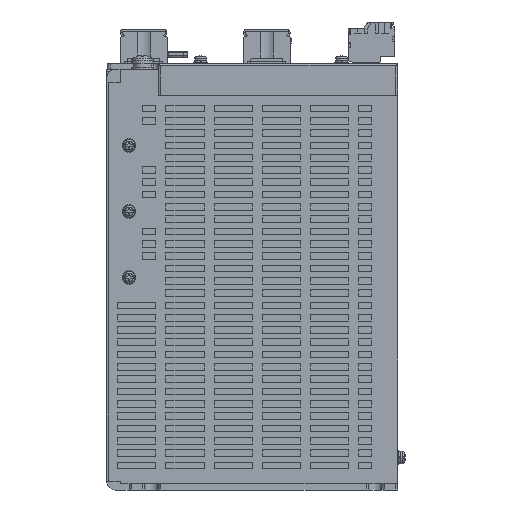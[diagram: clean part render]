
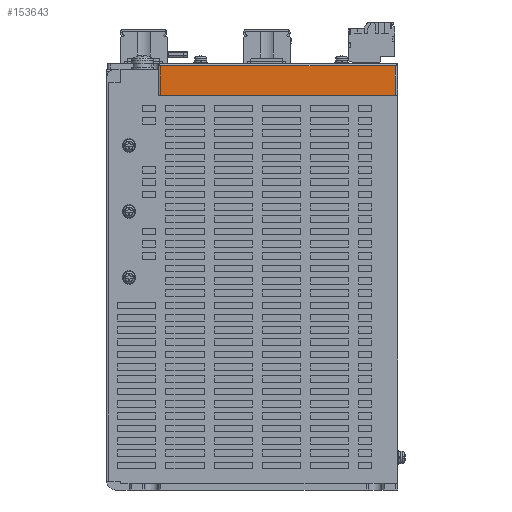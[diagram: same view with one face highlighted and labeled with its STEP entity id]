
A CAD part, front view. The second image highlights one B-rep face of the part: STEP entity #153643.
In plain terms, the highlighted planar face has unit normal (0, -1, 0).
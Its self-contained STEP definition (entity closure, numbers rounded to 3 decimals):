
#4545 = DIRECTION ( 'NONE',  ( 0., 1., 0. ) ) ;
#29668 = EDGE_CURVE ( 'NONE', #419558, #317708, #216721, .T. ) ;
#34182 = DIRECTION ( 'NONE',  ( 0., 0., -1. ) ) ;
#70110 = AXIS2_PLACEMENT_3D ( 'NONE', #143498, #4545, #345527 ) ;
#71529 = CARTESIAN_POINT ( 'NONE',  ( 53.621, -113.446, 460.5 ) ) ;
#74233 = CARTESIAN_POINT ( 'NONE',  ( 54.621, -113.446, 459.5 ) ) ;
#74256 = EDGE_CURVE ( 'NONE', #317708, #226761, #296153, .T. ) ;
#97612 = EDGE_CURVE ( 'NONE', #226761, #218084, #414624, .T. ) ;
#99187 = ORIENTED_EDGE ( 'NONE', *, *, #29668, .T. ) ;
#104711 = FACE_OUTER_BOUND ( 'NONE', #380770, .T. ) ;
#107751 = PLANE ( 'NONE',  #70110 ) ;
#125916 = VECTOR ( 'NONE', #310698, 1000. ) ;
#143498 = CARTESIAN_POINT ( 'NONE',  ( 54.621, -113.446, 460.5 ) ) ;
#153643 = ADVANCED_FACE ( 'NONE', ( #104711 ), #107751, .F. ) ;
#154868 = CARTESIAN_POINT ( 'NONE',  ( -51.379, -113.446, 446.5 ) ) ;
#183415 = CARTESIAN_POINT ( 'NONE',  ( -51.379, -113.446, 459.5 ) ) ;
#183551 = ORIENTED_EDGE ( 'NONE', *, *, #194903, .F. ) ;
#194903 = EDGE_CURVE ( 'NONE', #419558, #218084, #408445, .T. ) ;
#212840 = ORIENTED_EDGE ( 'NONE', *, *, #74256, .T. ) ;
#216721 = LINE ( 'NONE', #71529, #125916 ) ;
#218084 = VERTEX_POINT ( 'NONE', #154868 ) ;
#224248 = CARTESIAN_POINT ( 'NONE',  ( 53.621, -113.446, 459.5 ) ) ;
#226761 = VERTEX_POINT ( 'NONE', #183415 ) ;
#247467 = VECTOR ( 'NONE', #367822, 1000. ) ;
#291911 = ORIENTED_EDGE ( 'NONE', *, *, #97612, .T. ) ;
#296153 = LINE ( 'NONE', #74233, #393075 ) ;
#310698 = DIRECTION ( 'NONE',  ( 0., 0., 1. ) ) ;
#313413 = DIRECTION ( 'NONE',  ( -1., 0., 0. ) ) ;
#317708 = VERTEX_POINT ( 'NONE', #224248 ) ;
#345527 = DIRECTION ( 'NONE',  ( -1., 0., 0. ) ) ;
#350099 = VECTOR ( 'NONE', #34182, 1000. ) ;
#366892 = CARTESIAN_POINT ( 'NONE',  ( 53.621, -113.446, 446.5 ) ) ;
#367822 = DIRECTION ( 'NONE',  ( -1., 0., 0. ) ) ;
#374039 = CARTESIAN_POINT ( 'NONE',  ( -51.379, -113.446, 460.5 ) ) ;
#380770 = EDGE_LOOP ( 'NONE', ( #183551, #99187, #212840, #291911 ) ) ;
#393075 = VECTOR ( 'NONE', #313413, 1000. ) ;
#396330 = CARTESIAN_POINT ( 'NONE',  ( 54.621, -113.446, 446.5 ) ) ;
#408445 = LINE ( 'NONE', #396330, #247467 ) ;
#414624 = LINE ( 'NONE', #374039, #350099 ) ;
#419558 = VERTEX_POINT ( 'NONE', #366892 ) ;
